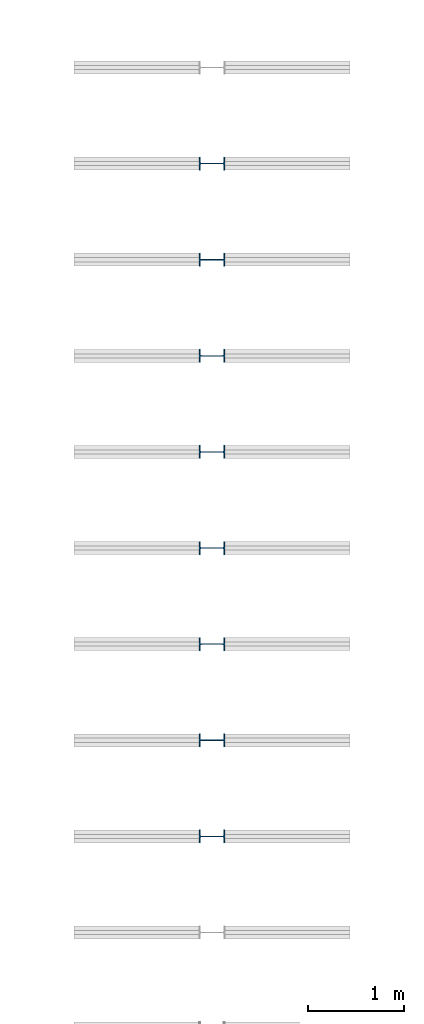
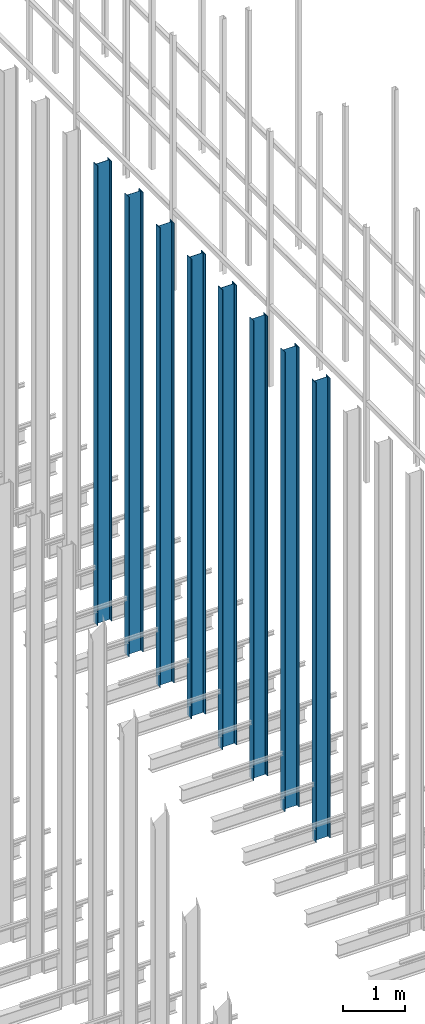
# One storey, part 54 of 302: 8 columns.
"""IFC2X3 building model written with IfcOpenShell, lengths in metres."""

from ifc_helpers import new_model, entity, si_unit, converted_unit, derived_unit, direction, frame, frame_2d, origin, place, context, subcontext, project, spatial, polyline, circle_curve, parameter, trimmed, segment, composite_curve, outline, extrude, source, transform, mapped, material, type_object, type_shapes, element, save


model = new_model("IFC2X3")

# Units and contexts
model_context = context("Model", 3, precision=1e-05, world=origin(), true_north=direction((6.12303176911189e-17, 1.0)))
body_context = subcontext(model_context, "Body", "Model", "MODEL_VIEW")
ifc_project = project(units=[si_unit("LENGTHUNIT", "METRE"), si_unit("AREAUNIT", "SQUARE_METRE"), si_unit("VOLUMEUNIT", "CUBIC_METRE"), converted_unit("PLANEANGLEUNIT", "DEGREE", entity("IfcRatioMeasure", 0.0174532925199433), si_unit("PLANEANGLEUNIT", "RADIAN"), dimensions=[0, 0, 0, 0, 0, 0, 0]), si_unit("MASSUNIT", "GRAM", prefix="KILO"), derived_unit("MASSDENSITYUNIT", [(si_unit("MASSUNIT", "GRAM", prefix="KILO"), 1), (si_unit("LENGTHUNIT", "METRE"), -3)]), derived_unit("MOMENTOFINERTIAUNIT", [(si_unit("LENGTHUNIT", "METRE"), 4)]), si_unit("TIMEUNIT", "SECOND"), si_unit("FREQUENCYUNIT", "HERTZ"), si_unit("THERMODYNAMICTEMPERATUREUNIT", "DEGREE_CELSIUS"), derived_unit("THERMALTRANSMITTANCEUNIT", [(si_unit("MASSUNIT", "GRAM", prefix="KILO"), 1), (si_unit("THERMODYNAMICTEMPERATUREUNIT", "KELVIN"), -1), (si_unit("TIMEUNIT", "SECOND"), -3)]), derived_unit("VOLUMETRICFLOWRATEUNIT", [(si_unit("LENGTHUNIT", "METRE"), 3), (si_unit("TIMEUNIT", "SECOND"), -1)]), si_unit("ELECTRICCURRENTUNIT", "AMPERE"), si_unit("ELECTRICVOLTAGEUNIT", "VOLT"), si_unit("POWERUNIT", "WATT"), si_unit("FORCEUNIT", "NEWTON", prefix="KILO"), si_unit("ILLUMINANCEUNIT", "LUX"), si_unit("LUMINOUSFLUXUNIT", "LUMEN"), si_unit("LUMINOUSINTENSITYUNIT", "CANDELA"), derived_unit("USERDEFINED", [(si_unit("MASSUNIT", "GRAM", prefix="KILO"), -1), (si_unit("LENGTHUNIT", "METRE"), -2), (si_unit("TIMEUNIT", "SECOND"), 3), (si_unit("LUMINOUSFLUXUNIT", "LUMEN"), 1)]), derived_unit("LINEARVELOCITYUNIT", [(si_unit("LENGTHUNIT", "METRE"), 1), (si_unit("TIMEUNIT", "SECOND"), -1)]), si_unit("PRESSUREUNIT", "PASCAL"), derived_unit("USERDEFINED", [(si_unit("LENGTHUNIT", "METRE"), -2), (si_unit("MASSUNIT", "GRAM", prefix="KILO"), 1), (si_unit("TIMEUNIT", "SECOND"), -2)]), derived_unit("LINEARFORCEUNIT", [(si_unit("MASSUNIT", "GRAM", prefix="KILO"), 1), (si_unit("LENGTHUNIT", "METRE"), 1), (si_unit("TIMEUNIT", "SECOND"), -2), (si_unit("LENGTHUNIT", "METRE"), -1)]), derived_unit("PLANARFORCEUNIT", [(si_unit("MASSUNIT", "GRAM", prefix="KILO"), 1), (si_unit("LENGTHUNIT", "METRE"), 1), (si_unit("TIMEUNIT", "SECOND"), -2), (si_unit("LENGTHUNIT", "METRE"), -2)])], contexts=[model_context])

# Site, building, storey
site_placement = place(None, origin())
site = spatial("IfcSite", under=ifc_project, at=site_placement, Name="Default", CompositionType="ELEMENT")
building_placement = place(site_placement, origin())
building = spatial("IfcBuilding", under=site, at=building_placement, CompositionType="ELEMENT")
storey_placement = place(building_placement, frame((0.0, 0.0, -1.3)))
storey = spatial("IfcBuildingStorey", under=building, at=storey_placement, Name="00_EG", CompositionType="ELEMENT", Elevation=-1.3)

# Columns
ifc_material = material(Name="Metall - Baustahl S235")
column_type = type_object("IfcColumnType", Name="IPE Stütze:IPE 270", PredefinedType="COLUMN", material=ifc_material)
shared_shape = source(origin(), body_context, "Body", "SweptSolid", [
    extrude(outline(composite_curve([segment(polyline([(0.1248, -0.0675), (0.135, -0.0675)]), True, "CONTINUOUS"), segment(polyline([(0.135, -0.0675), (0.135, 0.0675)]), True, "CONTINUOUS"), segment(polyline([(0.135, 0.0675), (0.1248, 0.0675)]), True, "CONTINUOUS"), segment(polyline([(0.1248, 0.0675), (0.1248, 0.0183)]), True, "CONTINUOUS"), segment(trimmed(circle_curve(frame_2d((0.1098, 0.0183), x_axis=(1.0, 0.0)), 0.015), [parameter(270.0)], [parameter(0.0)], True, "PARAMETER"), False, "CONTINUOUS"), segment(polyline([(0.1098, 0.0033), (-0.1098, 0.0033)]), True, "CONTINUOUS"), segment(trimmed(circle_curve(frame_2d((-0.1098, 0.0183), x_axis=(0.0, -1.0)), 0.015), [parameter(270.0)], [parameter(0.0)], True, "PARAMETER"), False, "CONTINUOUS"), segment(polyline([(-0.1248, 0.0183), (-0.1248, 0.0675)]), True, "CONTINUOUS"), segment(polyline([(-0.1248, 0.0675), (-0.135, 0.0675)]), True, "CONTINUOUS"), segment(polyline([(-0.135, 0.0675), (-0.135, -0.0675)]), True, "CONTINUOUS"), segment(polyline([(-0.135, -0.0675), (-0.1248, -0.0675)]), True, "CONTINUOUS"), segment(polyline([(-0.1248, -0.0675), (-0.1248, -0.0183)]), True, "CONTINUOUS"), segment(trimmed(circle_curve(frame_2d((-0.1098, -0.0183), x_axis=(-1.0, 0.0)), 0.015), [parameter(269.999999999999)], [parameter(0.0)], True, "PARAMETER"), False, "CONTINUOUS"), segment(polyline([(-0.1098, -0.0033), (0.1098, -0.0033)]), True, "CONTINUOUS"), segment(trimmed(circle_curve(frame_2d((0.1098, -0.0183), x_axis=(0.0, 1.0)), 0.015), [parameter(270.0)], [parameter(0.0)], True, "PARAMETER"), False, "CONTINUOUS"), segment(polyline([(0.1248, -0.0183), (0.1248, -0.0675)]), True, "CONTINUOUS")], self_intersect=False)), frame((0.0, 0.0, -0.0300000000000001), z_axis=(0.0, 0.0, 1.0), x_axis=(0.0, -1.0, 0.0)), (0.0, 0.0, 1.0), 9.0),
])
type_shapes(column_type, [shared_shape])
for number, where, z_axis, x_axis in (
    (1, (-164.775111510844, 47.0155889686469, 1.3), (0.0, 0.0, 1.0), (0.0, 1.0, 0.0)),
    (2, (-164.775111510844, 46.0155889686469, 1.3), (0.0, 0.0, 1.0), (0.0, 1.0, 0.0)),
    (3, (-164.775111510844, 45.0155889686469, 1.3), (0.0, 0.0, 1.0), (0.0, 1.0, 0.0)),
    (4, (-164.775111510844, 44.0155889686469, 1.3), (0.0, 0.0, 1.0), (0.0, 1.0, 0.0)),
    (5, (-164.775111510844, 43.0155889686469, 1.3), (0.0, 0.0, 1.0), (0.0, 1.0, 0.0)),
    (6, (-164.775111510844, 42.0155889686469, 1.3), (0.0, 0.0, 1.0), (0.0, 1.0, 0.0)),
    (7, (-164.775111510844, 41.0155889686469, 1.3), (0.0, 0.0, 1.0), (0.0, 1.0, 0.0)),
    (8, (-164.775111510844, 40.015588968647, 1.3), (0.0, 0.0, 1.0), (0.0, 1.0, 0.0)),
):
    element("IfcColumn", number, at=place(storey_placement, frame(where, z_axis=z_axis, x_axis=x_axis)), inside=storey, type_object=column_type, material=ifc_material, Name="IPE Stütze:IPE 270", ObjectType="IPE Stütze:IPE 270", context=body_context, shape_type="MappedRepresentation", body=[
        mapped(shared_shape, transform((0.0, 0.0, 0.0), scale=1.0)),
    ])

save(model, "model.ifc")
